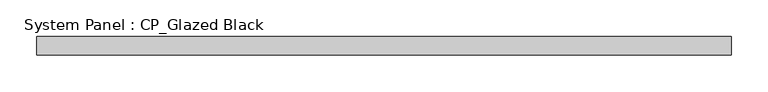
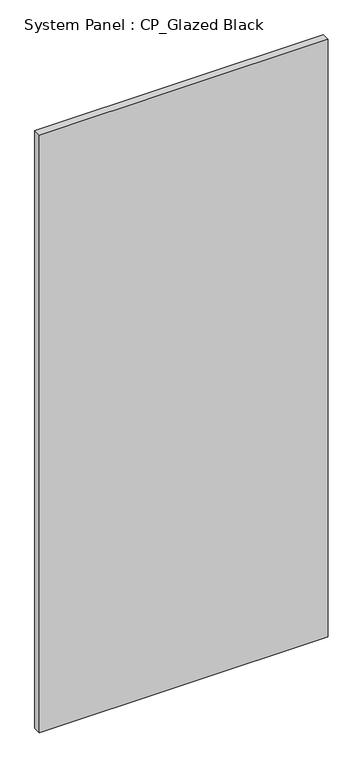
"""IFC4 building model written with IfcOpenShell, lengths in millimetres: plate geometry, System Panel : CP_Glazed Black."""

from ifc_helpers import new_model, si_unit, origin, origin_with_axes, place, context, project, spatial, polyline, outline, extrude, source, transform, mapped, element, save


def system_panel_cp_glazed_black_587f04b4(model_context):
    return source(origin(), model_context, "Body", "SweptSolid", [
        extrude(outline(polyline([(473.075, 19.05), (-473.075, 19.05), (-473.075, 44.45), (473.075, 44.45), (473.075, 19.05)])), origin_with_axes(), (0.0, 0.0, 1.0), 2070.1),
    ])


if __name__ == "__main__":
    model = new_model("IFC4")
    model_context = context("Model", 3, world=origin())
    ifc_project = project(units=[si_unit("LENGTHUNIT", "METRE", prefix="MILLI")], contexts=[model_context])
    site = spatial("IfcSite", under=ifc_project)
    building = spatial("IfcBuilding", under=site)
    placement = place(None, origin())
    system_panel_cp_glazed_black_shape = system_panel_cp_glazed_black_587f04b4(model_context)
    element("IfcPlate", 1, ObjectType="System Panel : CP_Glazed Black", at=placement, inside=building, context=model_context, shape_type="MappedRepresentation", body=[
        mapped(system_panel_cp_glazed_black_shape, transform((0.0, 0.0, 0.0), x_axis=(1.0, 0.0, 0.0), y_axis=(0.0, 1.0, 0.0), z_axis=(0.0, 0.0, 1.0))),
    ])
    save(model, "model.ifc")
